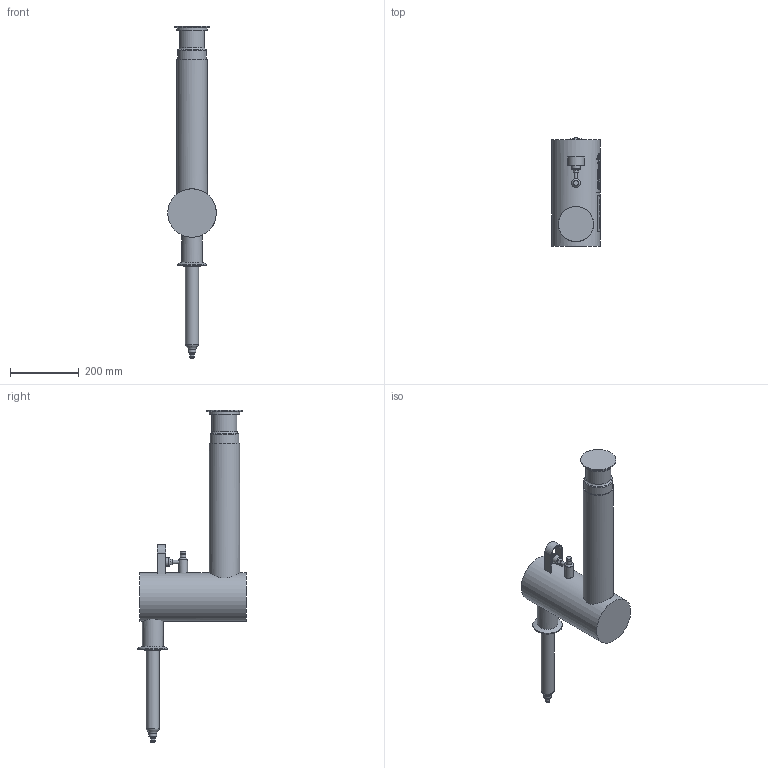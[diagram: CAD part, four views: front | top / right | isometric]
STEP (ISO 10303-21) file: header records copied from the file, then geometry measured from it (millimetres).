
FILE_DESCRIPTION (( 'STEP AP203' ), '1' );
FILE_NAME ('CA00260-TF.step', '2025-12-17T20:01:24', ( '' ), ( '' ), 'SwSTEP 2.0', 'SolidWorks 2023', '' );
FILE_SCHEMA (( 'CONFIG_CONTROL_DESIGN' ));
Length unit declared in the file: inch
Products named in the file (1): CA00260-TF
Bounding box: 141.3 x 316.7 x 969.44 mm (x, y, z)
Volume: 8317357.7 mm3; surface area: 387893.9 mm2
Topology: 1 solids, 1 shells, 673 faces, 1684 edges, 1116 vertices
Faces by surface type: plane 415, cylinder 178, bspline 53, torus 19, cone 8
Full cylindrical faces by diameter (mm): 1.494 x1, 1.636 x1, 1.778 x1, 1.935 x4, 2.039 x1, 2.302 x1, 2.967 x1, 3.071 x1, 3.409 x1, 3.632 x1, 3.807 x1, 4.009 x1, 4.573 x1, 6.177 x1, 7.63 x1, 7.722 x1, 9.232 x1, 10.16 x1, 10.236 x2, 10.287 x1, 10.749 x1, 12.7 x1, 15.748 x2, 23.012 x1, 24.638 x1, 25.4 x1, 26.873 x1, 30.988 x1, 38.227 x1, 48.59 x1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
Entity records: 28094 total; most frequent: CARTESIAN_POINT 13540, ORIENTED_EDGE 3182, DIRECTION 2540, EDGE_CURVE 1591, VERTEX_POINT 1101, AXIS2_PLACEMENT_3D 864, EDGE_LOOP 856, LINE 812
